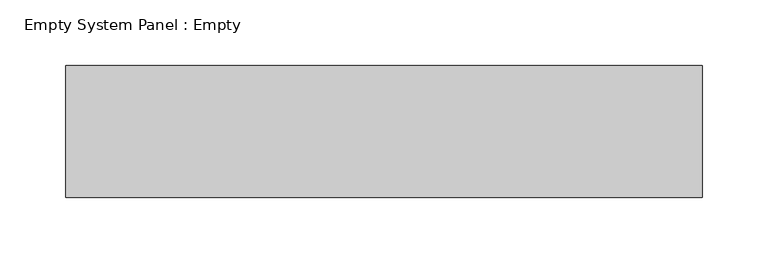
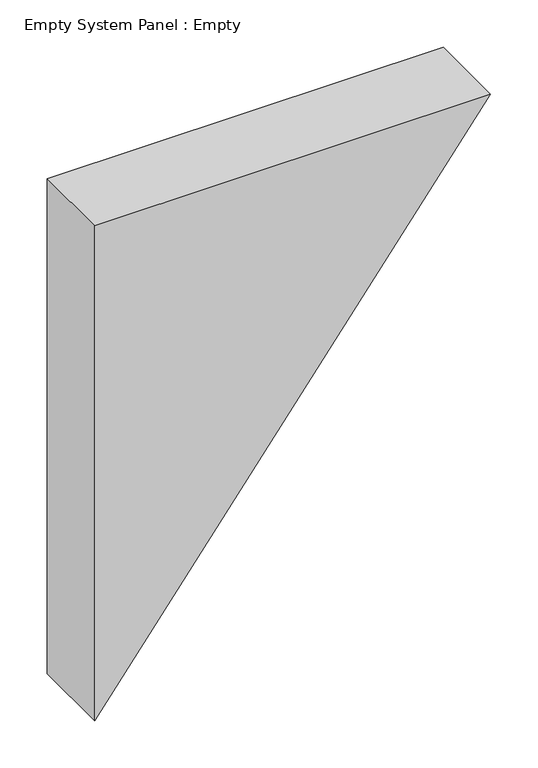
"""IFC4 building model written with IfcOpenShell, lengths in millimetres: plate geometry, Empty System Panel : Empty."""

from ifc_helpers import new_model, si_unit, frame, origin, place, context, project, spatial, polyline, outline, extrude, source, transform, mapped, element, save


def empty_system_panel_empty_ef78ea57(model_context):
    return source(origin(), model_context, "Body", "SweptSolid", [
        extrude(outline(polyline([(638.4419456, -241.644078), (0.0, -241.644078), (638.4419456, 241.644078), (638.4419456, -241.644078)])), frame((0.0, -50.0, 0.0), z_axis=(0.0, 1.0, 0.0), x_axis=(0.0, 0.0, 1.0)), (0.0, 0.0, 1.0), 100.0),
    ])


if __name__ == "__main__":
    model = new_model("IFC4")
    model_context = context("Model", 3, world=origin())
    ifc_project = project(units=[si_unit("LENGTHUNIT", "METRE", prefix="MILLI")], contexts=[model_context])
    site = spatial("IfcSite", under=ifc_project)
    building = spatial("IfcBuilding", under=site)
    placement = place(None, origin())
    empty_system_panel_empty_shape = empty_system_panel_empty_ef78ea57(model_context)
    element("IfcPlate", 1, ObjectType="Empty System Panel : Empty", at=placement, inside=building, context=model_context, shape_type="MappedRepresentation", body=[
        mapped(empty_system_panel_empty_shape, transform((0.0, 0.0, 0.0), x_axis=(1.0, 0.0, 0.0), y_axis=(0.0, 1.0, 0.0), z_axis=(0.0, 0.0, 1.0))),
    ])
    save(model, "model.ifc")
